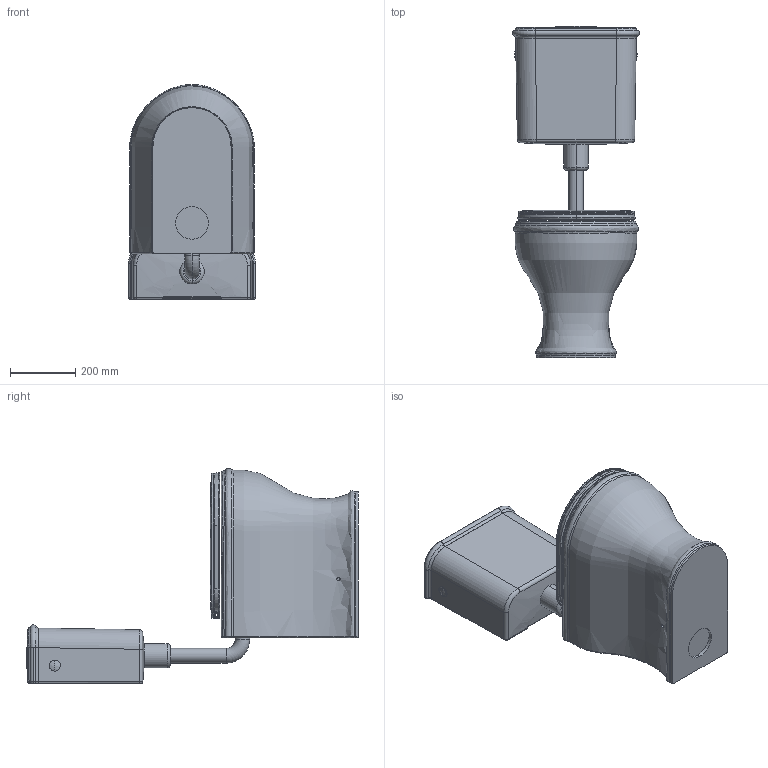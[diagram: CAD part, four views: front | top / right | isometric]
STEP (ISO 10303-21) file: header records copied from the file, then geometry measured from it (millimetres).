
FILE_DESCRIPTION (( 'STEP AP203' ), '1' );
FILE_NAME ('CHCSZA000000.stp', '2019-09-20T09:34:02', ( '' ), ( '' ), 'SwSTEP 2.0', 'SolidWorks 2019', '' );
FILE_SCHEMA (( 'CONFIG_CONTROL_DESIGN' ));
Length unit declared in the file: millimetre
Products named in the file (11): CHA400_C CHA400_Z TAPPO; CHA400_Z CASSETTA; CHA1800 CIAMBELLA; CHA100_P; CHA1800COPERCHIO; CHCSZA000000; CHA1800; CHA400_Z COPERCHIO; CHA400_Z TUBO; CHA400_MBL TAPPO
Assembly tree (11 placements, depth 3):
  CHCSZA000000
    CHA100_P
    CHCSZA000000
      CHA400_Z CASSETTA
      CHA400_Z COPERCHIO
    CHA1800
      CHA1800 CIAMBELLA
      CHA1800COPERCHIO
    CHA400_Z TUBO
    CHA400_C CHA400_Z TAPPO  x2
    CHA400_MBL TAPPO
Bounding box: 390 x 1019.09 x 659.95 mm (x, y, z)
Volume: 48843562.3 mm3; surface area: 2569412.4 mm2
Topology: 9 solids, 9 shells, 493 faces, 1167 edges, 675 vertices
Faces by surface type: cylinder 184, bspline 139, plane 76, torus 57, sphere 28, cone 9
Entity records: 35909 total; most frequent: CARTESIAN_POINT 24620, ORIENTED_EDGE 2230, DIRECTION 1973, EDGE_CURVE 1115, AXIS2_PLACEMENT_3D 820, VERTEX_POINT 662, EDGE_LOOP 521, FACE_OUTER_BOUND 485
